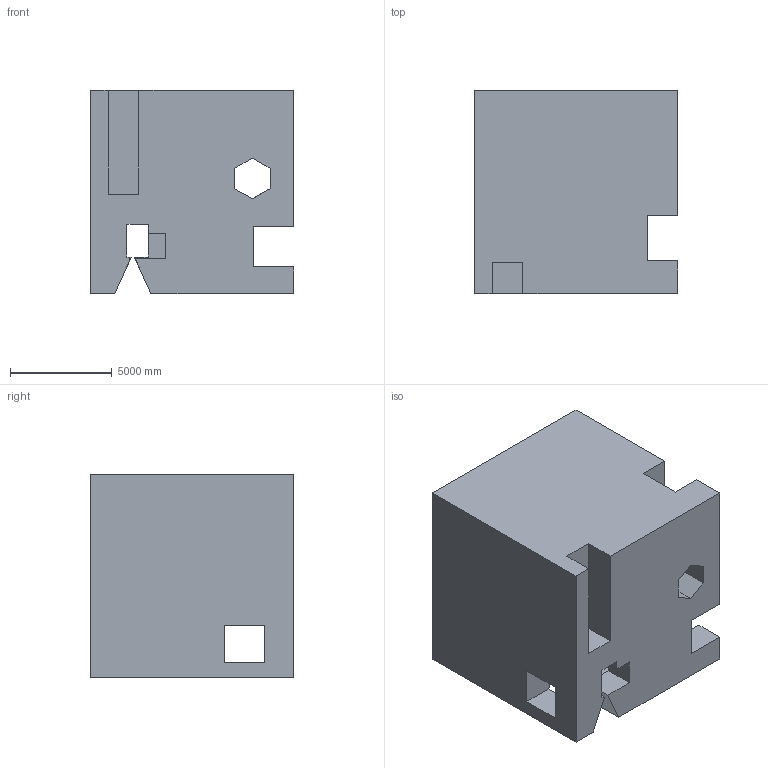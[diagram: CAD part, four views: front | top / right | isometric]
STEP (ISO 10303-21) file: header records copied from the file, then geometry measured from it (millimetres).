
FILE_DESCRIPTION (( 'STEP AP203' ), '1' );
FILE_NAME ('935.STEP', '2022-07-29T14:27:46', ( 'user' ), ( '' ), 'SwSTEP 2.0', 'SolidWorks 2021', '' );
FILE_SCHEMA (( 'CONFIG_CONTROL_DESIGN' ));
Length unit declared in the file: centimetre
Products named in the file (1): 935
Bounding box: 10000 x 10000 x 10000 mm (x, y, z)
Volume: 803407609337.9 mm3; surface area: 855690215.3 mm2
Topology: 1 solids, 1 shells, 70 faces, 219 edges, 146 vertices
Faces by surface type: plane 67, cylinder 3
Entity records: 2482 total; most frequent: CARTESIAN_POINT 442, ORIENTED_EDGE 438, DIRECTION 365, EDGE_CURVE 219, LINE 211, VECTOR 211, VERTEX_POINT 146, AXIS2_PLACEMENT_3D 77
